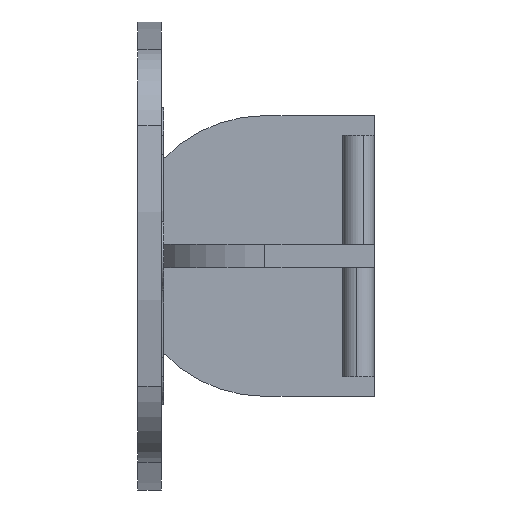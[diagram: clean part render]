
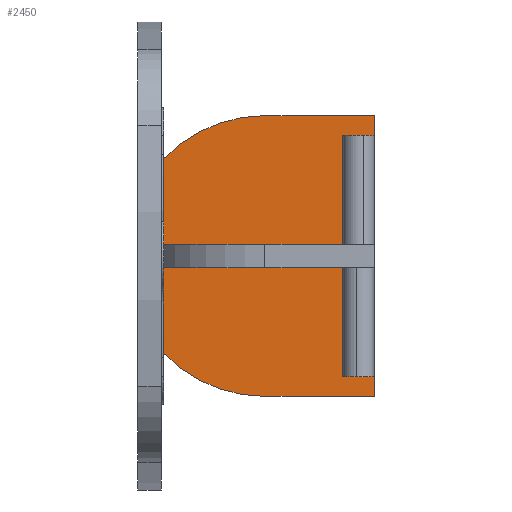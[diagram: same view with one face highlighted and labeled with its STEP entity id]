
A CAD part, left-side view. The second image highlights one B-rep face of the part: STEP entity #2450.
In plain terms, the highlighted planar face has unit normal (-1, 0, 0) as drawn and (0, 0, -1) by its records, which use the part's own axes.
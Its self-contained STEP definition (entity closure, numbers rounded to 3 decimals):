
#42 = VECTOR ( 'NONE', #3279, 1000. ) ;
#115 = CIRCLE ( 'NONE', #3525, 180. ) ;
#157 = VERTEX_POINT ( 'NONE', #3089 ) ;
#229 = DIRECTION ( 'NONE',  ( 1., 0., 0. ) ) ;
#236 = CARTESIAN_POINT ( 'NONE',  ( 180., 140., -15. ) ) ;
#356 = VERTEX_POINT ( 'NONE', #1981 ) ;
#376 = DIRECTION ( 'NONE',  ( 0., 0., 1. ) ) ;
#387 = EDGE_CURVE ( 'NONE', #3143, #157, #3131, .T. ) ;
#408 = DIRECTION ( 'NONE',  ( 0., 0., 1. ) ) ;
#418 = LINE ( 'NONE', #2366, #42 ) ;
#456 = VECTOR ( 'NONE', #2412, 1000. ) ;
#592 = EDGE_CURVE ( 'NONE', #1945, #356, #418, .T. ) ;
#650 = DIRECTION ( 'NONE',  ( 1., 0., 0. ) ) ;
#925 = CARTESIAN_POINT ( 'NONE',  ( -180., 0., -15. ) ) ;
#984 = DIRECTION ( 'NONE',  ( 1., 0., 0. ) ) ;
#1124 = EDGE_CURVE ( 'NONE', #1572, #3190, #1875, .T. ) ;
#1207 = CARTESIAN_POINT ( 'NONE',  ( 0., 140., -15. ) ) ;
#1316 = CARTESIAN_POINT ( 'NONE',  ( 180., 140., -15. ) ) ;
#1335 = CARTESIAN_POINT ( 'NONE',  ( 180., 0., -15. ) ) ;
#1390 = ORIENTED_EDGE ( 'NONE', *, *, #2018, .T. ) ;
#1408 = AXIS2_PLACEMENT_3D ( 'NONE', #2458, #408, #984 ) ;
#1472 = PLANE ( 'NONE',  #1408 ) ;
#1518 = DIRECTION ( 'NONE',  ( 1., 0., 0. ) ) ;
#1572 = VERTEX_POINT ( 'NONE', #2210 ) ;
#1802 = CARTESIAN_POINT ( 'NONE',  ( 0., 140., -15. ) ) ;
#1862 = FACE_OUTER_BOUND ( 'NONE', #3255, .T. ) ;
#1868 = CARTESIAN_POINT ( 'NONE',  ( 124.499, 270., -15. ) ) ;
#1875 = LINE ( 'NONE', #3712, #2423 ) ;
#1945 = VERTEX_POINT ( 'NONE', #925 ) ;
#1976 = ORIENTED_EDGE ( 'NONE', *, *, #3620, .F. ) ;
#1981 = CARTESIAN_POINT ( 'NONE',  ( -180., 140., -15. ) ) ;
#2018 = EDGE_CURVE ( 'NONE', #157, #1945, #3675, .T. ) ;
#2082 = CIRCLE ( 'NONE', #3159, 180. ) ;
#2210 = CARTESIAN_POINT ( 'NONE',  ( -124.499, 270., -15. ) ) ;
#2343 = ORIENTED_EDGE ( 'NONE', *, *, #387, .T. ) ;
#2366 = CARTESIAN_POINT ( 'NONE',  ( -180., 0., -15. ) ) ;
#2412 = DIRECTION ( 'NONE',  ( -1., 0., 0. ) ) ;
#2413 = DIRECTION ( 'NONE',  ( 0., 0., 1. ) ) ;
#2423 = VECTOR ( 'NONE', #229, 1000. ) ;
#2450 = ADVANCED_FACE ( 'NONE', ( #1862 ), #1472, .F. ) ;
#2458 = CARTESIAN_POINT ( 'NONE',  ( 0., 140., -15. ) ) ;
#2489 = ORIENTED_EDGE ( 'NONE', *, *, #1124, .T. ) ;
#2809 = DIRECTION ( 'NONE',  ( 0., -1., 0. ) ) ;
#3002 = EDGE_CURVE ( 'NONE', #3143, #3190, #2082, .T. ) ;
#3089 = CARTESIAN_POINT ( 'NONE',  ( 180., 0., -15. ) ) ;
#3131 = LINE ( 'NONE', #236, #3499 ) ;
#3143 = VERTEX_POINT ( 'NONE', #1316 ) ;
#3159 = AXIS2_PLACEMENT_3D ( 'NONE', #1207, #376, #1518 ) ;
#3190 = VERTEX_POINT ( 'NONE', #1868 ) ;
#3203 = ORIENTED_EDGE ( 'NONE', *, *, #3002, .F. ) ;
#3255 = EDGE_LOOP ( 'NONE', ( #3203, #2343, #1390, #3695, #1976, #2489 ) ) ;
#3279 = DIRECTION ( 'NONE',  ( 0., 1., 0. ) ) ;
#3499 = VECTOR ( 'NONE', #2809, 1000. ) ;
#3525 = AXIS2_PLACEMENT_3D ( 'NONE', #1802, #2413, #650 ) ;
#3620 = EDGE_CURVE ( 'NONE', #1572, #356, #115, .T. ) ;
#3675 = LINE ( 'NONE', #1335, #456 ) ;
#3695 = ORIENTED_EDGE ( 'NONE', *, *, #592, .T. ) ;
#3712 = CARTESIAN_POINT ( 'NONE',  ( -124.499, 270., -15. ) ) ;
